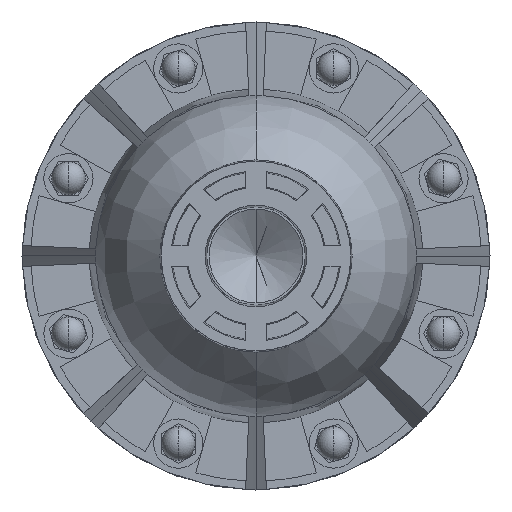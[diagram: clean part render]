
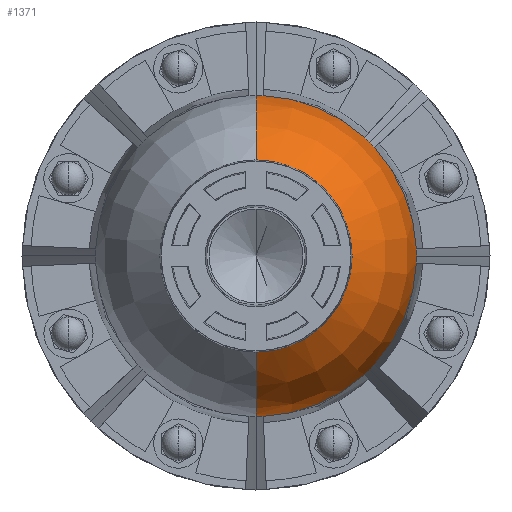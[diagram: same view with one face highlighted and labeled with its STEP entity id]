
A CAD part, front view. The second image highlights one B-rep face of the part: STEP entity #1371.
In plain terms, the highlighted toroidal (fillet/blend) face has major radius 0.15 mm and minor radius 49.53 mm.
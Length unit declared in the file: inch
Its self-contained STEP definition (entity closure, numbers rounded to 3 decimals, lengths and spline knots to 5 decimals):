
#111 = AXIS2_PLACEMENT_3D ( 'NONE', #9498, #1849, #10804 ) ;
#142 = CARTESIAN_POINT ( 'NONE',  ( 0., -4.535, 0.00589 ) ) ;
#166 = EDGE_CURVE ( 'NONE', #6044, #12591, #11525, .T. ) ;
#301 = FACE_OUTER_BOUND ( 'NONE', #15728, .T. ) ;
#330 = EDGE_CURVE ( 'NONE', #12462, #14323, #15524, .T. ) ;
#340 = ORIENTED_EDGE ( 'NONE', *, *, #15759, .F. ) ;
#399 = VERTEX_POINT ( 'NONE', #4231 ) ;
#505 = DIRECTION ( 'NONE',  ( 0., 1., 0. ) ) ;
#846 = CARTESIAN_POINT ( 'NONE',  ( 0., -4.56903, -1.9556 ) ) ;
#861 = ORIENTED_EDGE ( 'NONE', *, *, #11061, .F. ) ;
#1064 = VERTEX_POINT ( 'NONE', #2340 ) ;
#1180 = DIRECTION ( 'NONE',  ( 0., 1., 0. ) ) ;
#1243 = EDGE_CURVE ( 'NONE', #3601, #2734, #2272, .T. ) ;
#1311 = ORIENTED_EDGE ( 'NONE', *, *, #5703, .F. ) ;
#1333 = DIRECTION ( 'NONE',  ( 0., 1., 0. ) ) ;
#1371 = ADVANCED_FACE ( 'NONE', ( #301 ), #3697, .T. ) ;
#1401 = CIRCLE ( 'NONE', #4278, 1.9556 ) ;
#1405 = DIRECTION ( 'NONE',  ( 0., 0., 1. ) ) ;
#1779 = CARTESIAN_POINT ( 'NONE',  ( 0., -4.535, 0. ) ) ;
#1785 = CARTESIAN_POINT ( 'NONE',  ( 0., -4.56903, 0. ) ) ;
#1849 = DIRECTION ( 'NONE',  ( 0., -1., 0. ) ) ;
#1928 = ORIENTED_EDGE ( 'NONE', *, *, #7998, .F. ) ;
#1929 = CIRCLE ( 'NONE', #9523, 1.95 ) ;
#1969 = CIRCLE ( 'NONE', #14562, 1.9556 ) ;
#2120 = DIRECTION ( 'NONE',  ( 0., 1., 0. ) ) ;
#2156 = AXIS2_PLACEMENT_3D ( 'NONE', #9785, #2120, #11064 ) ;
#2272 = CIRCLE ( 'NONE', #4142, 1.9556 ) ;
#2340 = CARTESIAN_POINT ( 'NONE',  ( 1.95366, -4.56903, -0.08701 ) ) ;
#2528 = VERTEX_POINT ( 'NONE', #12494 ) ;
#2728 = ORIENTED_EDGE ( 'NONE', *, *, #166, .F. ) ;
#2734 = VERTEX_POINT ( 'NONE', #12963 ) ;
#3077 = DIRECTION ( 'NONE',  ( 0., 0., 1. ) ) ;
#3342 = ORIENTED_EDGE ( 'NONE', *, *, #15726, .F. ) ;
#3494 = CIRCLE ( 'NONE', #7959, 1.9556 ) ;
#3601 = VERTEX_POINT ( 'NONE', #4675 ) ;
#3697 = TOROIDAL_SURFACE ( 'NONE', #14398, 0.00589, 1.95 ) ;
#4131 = CARTESIAN_POINT ( 'NONE',  ( 0., -4.56903, 0. ) ) ;
#4142 = AXIS2_PLACEMENT_3D ( 'NONE', #13029, #5374, #14304 ) ;
#4231 = CARTESIAN_POINT ( 'NONE',  ( 1.31992, -4.56903, -1.44297 ) ) ;
#4278 = AXIS2_PLACEMENT_3D ( 'NONE', #14797, #7131, #16071 ) ;
#4296 = EDGE_CURVE ( 'NONE', #5856, #6044, #1401, .T. ) ;
#4422 = CARTESIAN_POINT ( 'NONE',  ( 0., -4.56903, 0. ) ) ;
#4542 = ORIENTED_EDGE ( 'NONE', *, *, #6425, .T. ) ;
#4621 = ORIENTED_EDGE ( 'NONE', *, *, #11030, .F. ) ;
#4670 = CARTESIAN_POINT ( 'NONE',  ( 0., -4.535, -0.00589 ) ) ;
#4675 = CARTESIAN_POINT ( 'NONE',  ( 0., -4.56903, 1.9556 ) ) ;
#4703 = CARTESIAN_POINT ( 'NONE',  ( 0., -4.56903, 0. ) ) ;
#5013 = CARTESIAN_POINT ( 'NONE',  ( 1.38282, -4.56903, 1.38282 ) ) ;
#5139 = VERTEX_POINT ( 'NONE', #16273 ) ;
#5194 = ORIENTED_EDGE ( 'NONE', *, *, #330, .F. ) ;
#5268 = EDGE_CURVE ( 'NONE', #8588, #5139, #15758, .T. ) ;
#5374 = DIRECTION ( 'NONE',  ( 0., 1., 0. ) ) ;
#5394 = EDGE_CURVE ( 'NONE', #12289, #10961, #6938, .T. ) ;
#5399 = AXIS2_PLACEMENT_3D ( 'NONE', #14266, #6595, #15559 ) ;
#5403 = DIRECTION ( 'NONE',  ( 1., 0., 0. ) ) ;
#5502 = CARTESIAN_POINT ( 'NONE',  ( 0., -4.56903, 0. ) ) ;
#5684 = DIRECTION ( 'NONE',  ( 0., 0., 1. ) ) ;
#5703 = EDGE_CURVE ( 'NONE', #12591, #12462, #9356, .T. ) ;
#5773 = CARTESIAN_POINT ( 'NONE',  ( 0., -4.56903, 0. ) ) ;
#5856 = VERTEX_POINT ( 'NONE', #7182 ) ;
#5948 = DIRECTION ( 'NONE',  ( 0., 0., -1. ) ) ;
#5979 = DIRECTION ( 'NONE',  ( 0.707, 0., -0.707 ) ) ;
#6044 = VERTEX_POINT ( 'NONE', #5013 ) ;
#6376 = CARTESIAN_POINT ( 'NONE',  ( 1.44297, -4.56903, -1.31992 ) ) ;
#6405 = CARTESIAN_POINT ( 'NONE',  ( 0., -6.0986, -1.17108 ) ) ;
#6425 = EDGE_CURVE ( 'NONE', #8588, #7116, #1929, .T. ) ;
#6595 = DIRECTION ( 'NONE',  ( 0., 1., 0. ) ) ;
#6774 = DIRECTION ( 'NONE',  ( 0.707, 0., -0.707 ) ) ;
#6938 = CIRCLE ( 'NONE', #11230, 1.9556 ) ;
#7031 = DIRECTION ( 'NONE',  ( 0., 0., 1. ) ) ;
#7116 = VERTEX_POINT ( 'NONE', #846 ) ;
#7131 = DIRECTION ( 'NONE',  ( 0., 1., 0. ) ) ;
#7182 = CARTESIAN_POINT ( 'NONE',  ( 1.31992, -4.56903, 1.44297 ) ) ;
#7245 = EDGE_CURVE ( 'NONE', #2528, #7116, #1969, .T. ) ;
#7412 = CIRCLE ( 'NONE', #14839, 1.9556 ) ;
#7642 = ORIENTED_EDGE ( 'NONE', *, *, #4296, .F. ) ;
#7959 = AXIS2_PLACEMENT_3D ( 'NONE', #4422, #13344, #5684 ) ;
#7998 = EDGE_CURVE ( 'NONE', #5139, #3601, #15343, .T. ) ;
#8588 = VERTEX_POINT ( 'NONE', #6405 ) ;
#8814 = CARTESIAN_POINT ( 'NONE',  ( 0., -4.56903, 0. ) ) ;
#8975 = CARTESIAN_POINT ( 'NONE',  ( 0., -4.56903, 0. ) ) ;
#9014 = AXIS2_PLACEMENT_3D ( 'NONE', #142, #9061, #1405 ) ;
#9061 = DIRECTION ( 'NONE',  ( -1., 0., 0. ) ) ;
#9135 = AXIS2_PLACEMENT_3D ( 'NONE', #8975, #1333, #10270 ) ;
#9356 = CIRCLE ( 'NONE', #15200, 1.9556 ) ;
#9456 = EDGE_CURVE ( 'NONE', #2734, #5856, #3494, .T. ) ;
#9498 = CARTESIAN_POINT ( 'NONE',  ( 0., -6.0986, 0. ) ) ;
#9523 = AXIS2_PLACEMENT_3D ( 'NONE', #4670, #13600, #5948 ) ;
#9785 = CARTESIAN_POINT ( 'NONE',  ( 0., -4.56903, 0. ) ) ;
#10117 = DIRECTION ( 'NONE',  ( 0., 0., -1. ) ) ;
#10270 = DIRECTION ( 'NONE',  ( 0.707, 0., 0.707 ) ) ;
#10353 = AXIS2_PLACEMENT_3D ( 'NONE', #4131, #13056, #5403 ) ;
#10740 = DIRECTION ( 'NONE',  ( 0., 1., 0. ) ) ;
#10803 = CARTESIAN_POINT ( 'NONE',  ( 1.44297, -4.56903, 1.31992 ) ) ;
#10804 = DIRECTION ( 'NONE',  ( 0., 0., 1. ) ) ;
#10961 = VERTEX_POINT ( 'NONE', #14109 ) ;
#11030 = EDGE_CURVE ( 'NONE', #14323, #1064, #14620, .T. ) ;
#11061 = EDGE_CURVE ( 'NONE', #10961, #399, #7412, .T. ) ;
#11064 = DIRECTION ( 'NONE',  ( 0., 0., 1. ) ) ;
#11230 = AXIS2_PLACEMENT_3D ( 'NONE', #4703, #13633, #5979 ) ;
#11302 = CIRCLE ( 'NONE', #16182, 1.9556 ) ;
#11453 = CARTESIAN_POINT ( 'NONE',  ( 1.9556, -4.56903, 0. ) ) ;
#11525 = CIRCLE ( 'NONE', #9135, 1.9556 ) ;
#11951 = DIRECTION ( 'NONE',  ( 0., 0., 1. ) ) ;
#12289 = VERTEX_POINT ( 'NONE', #6376 ) ;
#12462 = VERTEX_POINT ( 'NONE', #13099 ) ;
#12494 = CARTESIAN_POINT ( 'NONE',  ( 0.08701, -4.56903, -1.95366 ) ) ;
#12591 = VERTEX_POINT ( 'NONE', #10803 ) ;
#12799 = ORIENTED_EDGE ( 'NONE', *, *, #5268, .F. ) ;
#12963 = CARTESIAN_POINT ( 'NONE',  ( 0.08701, -4.56903, 1.95366 ) ) ;
#13029 = CARTESIAN_POINT ( 'NONE',  ( 0., -4.56903, 0. ) ) ;
#13056 = DIRECTION ( 'NONE',  ( 0., 1., 0. ) ) ;
#13099 = CARTESIAN_POINT ( 'NONE',  ( 1.95366, -4.56903, 0.08701 ) ) ;
#13344 = DIRECTION ( 'NONE',  ( 0., 1., 0. ) ) ;
#13600 = DIRECTION ( 'NONE',  ( 1., 0., 0. ) ) ;
#13633 = DIRECTION ( 'NONE',  ( 0., 1., 0. ) ) ;
#14109 = CARTESIAN_POINT ( 'NONE',  ( 1.38282, -4.56903, -1.38282 ) ) ;
#14224 = ORIENTED_EDGE ( 'NONE', *, *, #1243, .F. ) ;
#14266 = CARTESIAN_POINT ( 'NONE',  ( 0., -4.56903, 0. ) ) ;
#14304 = DIRECTION ( 'NONE',  ( 0., 0., 1. ) ) ;
#14323 = VERTEX_POINT ( 'NONE', #11453 ) ;
#14398 = AXIS2_PLACEMENT_3D ( 'NONE', #1779, #505, #11951 ) ;
#14436 = DIRECTION ( 'NONE',  ( 0., 1., 0. ) ) ;
#14562 = AXIS2_PLACEMENT_3D ( 'NONE', #8814, #1180, #10117 ) ;
#14620 = CIRCLE ( 'NONE', #10353, 1.9556 ) ;
#14636 = ORIENTED_EDGE ( 'NONE', *, *, #5394, .F. ) ;
#14708 = DIRECTION ( 'NONE',  ( 0., 1., 0. ) ) ;
#14797 = CARTESIAN_POINT ( 'NONE',  ( 0., -4.56903, 0. ) ) ;
#14839 = AXIS2_PLACEMENT_3D ( 'NONE', #5502, #14436, #6774 ) ;
#15200 = AXIS2_PLACEMENT_3D ( 'NONE', #1785, #10740, #3077 ) ;
#15343 = CIRCLE ( 'NONE', #9014, 1.95 ) ;
#15524 = CIRCLE ( 'NONE', #5399, 1.9556 ) ;
#15559 = DIRECTION ( 'NONE',  ( 1., 0., 0. ) ) ;
#15726 = EDGE_CURVE ( 'NONE', #1064, #12289, #11302, .T. ) ;
#15728 = EDGE_LOOP ( 'NONE', ( #12799, #4542, #15996, #340, #861, #14636, #3342, #4621, #5194, #1311, #2728, #7642, #15911, #14224, #1928 ) ) ;
#15758 = CIRCLE ( 'NONE', #111, 1.17108 ) ;
#15759 = EDGE_CURVE ( 'NONE', #399, #2528, #16478, .T. ) ;
#15911 = ORIENTED_EDGE ( 'NONE', *, *, #9456, .F. ) ;
#15996 = ORIENTED_EDGE ( 'NONE', *, *, #7245, .F. ) ;
#16071 = DIRECTION ( 'NONE',  ( 0.707, 0., 0.707 ) ) ;
#16182 = AXIS2_PLACEMENT_3D ( 'NONE', #5773, #14708, #7031 ) ;
#16273 = CARTESIAN_POINT ( 'NONE',  ( 0., -6.0986, 1.17108 ) ) ;
#16478 = CIRCLE ( 'NONE', #2156, 1.9556 ) ;
